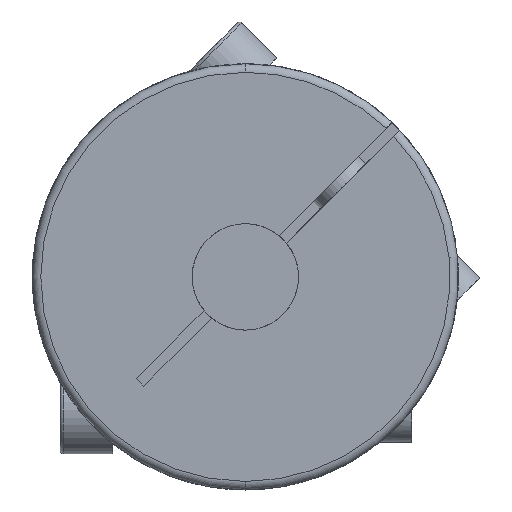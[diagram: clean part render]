
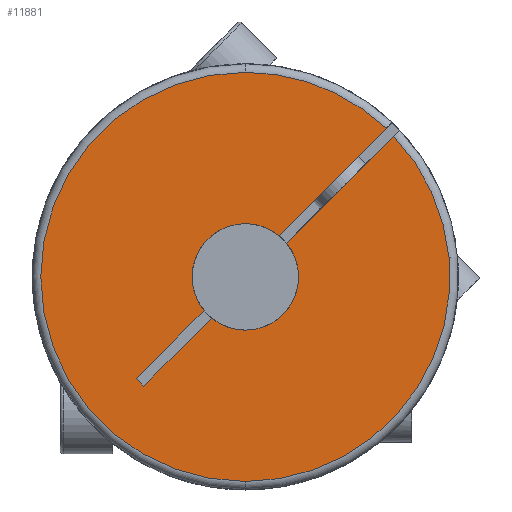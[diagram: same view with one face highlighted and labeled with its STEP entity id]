
A CAD part, left-side view. The second image highlights one B-rep face of the part: STEP entity #11881.
In plain terms, the highlighted planar face has unit normal (-1, 0, 0).
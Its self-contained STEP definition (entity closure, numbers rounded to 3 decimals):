
#102 = DIRECTION ( 'NONE',  ( -1., 0., 0. ) ) ;
#139 = CARTESIAN_POINT ( 'NONE',  ( -15., 4.773, -5.127 ) ) ;
#190 = DIRECTION ( 'NONE',  ( -1., 0., 0. ) ) ;
#704 = DIRECTION ( 'NONE',  ( 0., 0.707, -0.707 ) ) ;
#874 = CIRCLE ( 'NONE', #3271, 2.5 ) ;
#925 = AXIS2_PLACEMENT_3D ( 'NONE', #1365, #8386, #2394 ) ;
#1056 = VERTEX_POINT ( 'NONE', #5362 ) ;
#1162 = CARTESIAN_POINT ( 'NONE',  ( -15., 1.582, -1.936 ) ) ;
#1365 = CARTESIAN_POINT ( 'NONE',  ( -15., 0., 0. ) ) ;
#1373 = DIRECTION ( 'NONE',  ( 0., -0.707, 0.707 ) ) ;
#1576 = CARTESIAN_POINT ( 'NONE',  ( -15., -9.016, 9.369 ) ) ;
#1984 = CIRCLE ( 'NONE', #925, 2.5 ) ;
#2394 = DIRECTION ( 'NONE',  ( 0., 0., 1. ) ) ;
#2510 = VECTOR ( 'NONE', #704, 1000. ) ;
#2567 = CARTESIAN_POINT ( 'NONE',  ( -15., 0., 2.5 ) ) ;
#2668 = EDGE_CURVE ( 'NONE', #3337, #11656, #6733, .T. ) ;
#2835 = CIRCLE ( 'NONE', #8642, 2.5 ) ;
#2837 = CARTESIAN_POINT ( 'NONE',  ( -15., -6.963, 6.609 ) ) ;
#2937 = EDGE_CURVE ( 'NONE', #7774, #8432, #4524, .T. ) ;
#3153 = ORIENTED_EDGE ( 'NONE', *, *, #8484, .T. ) ;
#3166 = CIRCLE ( 'NONE', #6509, 2.5 ) ;
#3252 = LINE ( 'NONE', #5492, #5254 ) ;
#3271 = AXIS2_PLACEMENT_3D ( 'NONE', #4256, #11291, #5234 ) ;
#3337 = VERTEX_POINT ( 'NONE', #6071 ) ;
#3423 = ORIENTED_EDGE ( 'NONE', *, *, #4771, .F. ) ;
#3570 = DIRECTION ( 'NONE',  ( 1., 0., 0. ) ) ;
#3685 = DIRECTION ( 'NONE',  ( -1., 0., 0. ) ) ;
#3959 = DIRECTION ( 'NONE',  ( -1., 0., 0. ) ) ;
#3966 = ORIENTED_EDGE ( 'NONE', *, *, #5933, .F. ) ;
#4007 = EDGE_CURVE ( 'NONE', #5508, #12759, #12792, .T. ) ;
#4170 = VERTEX_POINT ( 'NONE', #6381 ) ;
#4256 = CARTESIAN_POINT ( 'NONE',  ( -15., 0., 0. ) ) ;
#4413 = CIRCLE ( 'NONE', #6768, 9.6 ) ;
#4524 = CIRCLE ( 'NONE', #9201, 9.6 ) ;
#4565 = EDGE_CURVE ( 'NONE', #6214, #1056, #4413, .T. ) ;
#4771 = EDGE_CURVE ( 'NONE', #4836, #4170, #3166, .T. ) ;
#4836 = VERTEX_POINT ( 'NONE', #4843 ) ;
#4843 = CARTESIAN_POINT ( 'NONE',  ( -15., 0., -2.5 ) ) ;
#4958 = AXIS2_PLACEMENT_3D ( 'NONE', #9972, #3959, #10988 ) ;
#5136 = LINE ( 'NONE', #10718, #2510 ) ;
#5234 = DIRECTION ( 'NONE',  ( 0., 0., 1. ) ) ;
#5254 = VECTOR ( 'NONE', #11545, 1000. ) ;
#5361 = ORIENTED_EDGE ( 'NONE', *, *, #12283, .F. ) ;
#5362 = CARTESIAN_POINT ( 'NONE',  ( -15., 0., 9.6 ) ) ;
#5492 = CARTESIAN_POINT ( 'NONE',  ( -15., 5.127, -4.773 ) ) ;
#5508 = VERTEX_POINT ( 'NONE', #12953 ) ;
#5612 = CIRCLE ( 'NONE', #4958, 9.6 ) ;
#5739 = DIRECTION ( 'NONE',  ( -1., 0., 0. ) ) ;
#5822 = EDGE_LOOP ( 'NONE', ( #6553, #13009, #10304, #3153, #7810, #12592, #3423, #3966, #12936, #6312, #12280, #5361 ) ) ;
#5910 = LINE ( 'NONE', #8393, #8610 ) ;
#5932 = CARTESIAN_POINT ( 'NONE',  ( -15., 5.127, -4.773 ) ) ;
#5933 = EDGE_CURVE ( 'NONE', #11656, #4836, #2835, .T. ) ;
#6071 = CARTESIAN_POINT ( 'NONE',  ( -15., 4.773, -5.127 ) ) ;
#6093 = CARTESIAN_POINT ( 'NONE',  ( -15., 0., 0. ) ) ;
#6172 = CARTESIAN_POINT ( 'NONE',  ( -15., 0., 0. ) ) ;
#6214 = VERTEX_POINT ( 'NONE', #8690 ) ;
#6312 = ORIENTED_EDGE ( 'NONE', *, *, #10233, .F. ) ;
#6381 = CARTESIAN_POINT ( 'NONE',  ( -15., -1.936, 1.582 ) ) ;
#6509 = AXIS2_PLACEMENT_3D ( 'NONE', #11807, #5739, #12827 ) ;
#6544 = EDGE_CURVE ( 'NONE', #6214, #7057, #5136, .T. ) ;
#6553 = ORIENTED_EDGE ( 'NONE', *, *, #11360, .F. ) ;
#6669 = CARTESIAN_POINT ( 'NONE',  ( -15., 0., -9.6 ) ) ;
#6733 = LINE ( 'NONE', #139, #11795 ) ;
#6768 = AXIS2_PLACEMENT_3D ( 'NONE', #6093, #102, #7112 ) ;
#6776 = VECTOR ( 'NONE', #9601, 1000. ) ;
#6784 = AXIS2_PLACEMENT_3D ( 'NONE', #7565, #3570, #10591 ) ;
#7057 = VERTEX_POINT ( 'NONE', #7090 ) ;
#7090 = CARTESIAN_POINT ( 'NONE',  ( -15., -1.582, 1.936 ) ) ;
#7112 = DIRECTION ( 'NONE',  ( 0., 0., -1. ) ) ;
#7121 = FACE_OUTER_BOUND ( 'NONE', #5822, .T. ) ;
#7201 = DIRECTION ( 'NONE',  ( 0., 0., 1. ) ) ;
#7565 = CARTESIAN_POINT ( 'NONE',  ( -15., 10., 0. ) ) ;
#7774 = VERTEX_POINT ( 'NONE', #6669 ) ;
#7810 = ORIENTED_EDGE ( 'NONE', *, *, #2937, .T. ) ;
#8108 = EDGE_CURVE ( 'NONE', #4170, #8432, #5910, .T. ) ;
#8386 = DIRECTION ( 'NONE',  ( -1., 0., 0. ) ) ;
#8393 = CARTESIAN_POINT ( 'NONE',  ( -15., 4.773, -5.127 ) ) ;
#8432 = VERTEX_POINT ( 'NONE', #2837 ) ;
#8484 = EDGE_CURVE ( 'NONE', #1056, #7774, #5612, .T. ) ;
#8610 = VECTOR ( 'NONE', #1373, 1000. ) ;
#8642 = AXIS2_PLACEMENT_3D ( 'NONE', #6172, #190, #7201 ) ;
#8690 = CARTESIAN_POINT ( 'NONE',  ( -15., -6.609, 6.963 ) ) ;
#9182 = DIRECTION ( 'NONE',  ( 0., -0.707, 0.707 ) ) ;
#9201 = AXIS2_PLACEMENT_3D ( 'NONE', #9706, #3685, #10712 ) ;
#9601 = DIRECTION ( 'NONE',  ( 0., 0.707, -0.707 ) ) ;
#9706 = CARTESIAN_POINT ( 'NONE',  ( -15., 0., 0. ) ) ;
#9972 = CARTESIAN_POINT ( 'NONE',  ( -15., 0., 0. ) ) ;
#10233 = EDGE_CURVE ( 'NONE', #12759, #3337, #3252, .T. ) ;
#10304 = ORIENTED_EDGE ( 'NONE', *, *, #4565, .T. ) ;
#10591 = DIRECTION ( 'NONE',  ( 0., 0., -1. ) ) ;
#10712 = DIRECTION ( 'NONE',  ( 0., 0., -1. ) ) ;
#10718 = CARTESIAN_POINT ( 'NONE',  ( -15., -9.016, 9.369 ) ) ;
#10988 = DIRECTION ( 'NONE',  ( 0., 0., -1. ) ) ;
#11030 = VERTEX_POINT ( 'NONE', #2567 ) ;
#11291 = DIRECTION ( 'NONE',  ( -1., 0., 0. ) ) ;
#11360 = EDGE_CURVE ( 'NONE', #7057, #11030, #874, .T. ) ;
#11545 = DIRECTION ( 'NONE',  ( 0., -0.707, -0.707 ) ) ;
#11656 = VERTEX_POINT ( 'NONE', #1162 ) ;
#11795 = VECTOR ( 'NONE', #9182, 1000. ) ;
#11807 = CARTESIAN_POINT ( 'NONE',  ( -15., 0., 0. ) ) ;
#11881 = ADVANCED_FACE ( 'NONE', ( #7121 ), #12611, .F. ) ;
#12280 = ORIENTED_EDGE ( 'NONE', *, *, #4007, .F. ) ;
#12283 = EDGE_CURVE ( 'NONE', #11030, #5508, #1984, .T. ) ;
#12592 = ORIENTED_EDGE ( 'NONE', *, *, #8108, .F. ) ;
#12611 = PLANE ( 'NONE',  #6784 ) ;
#12759 = VERTEX_POINT ( 'NONE', #5932 ) ;
#12792 = LINE ( 'NONE', #1576, #6776 ) ;
#12827 = DIRECTION ( 'NONE',  ( 0., 0., 1. ) ) ;
#12936 = ORIENTED_EDGE ( 'NONE', *, *, #2668, .F. ) ;
#12953 = CARTESIAN_POINT ( 'NONE',  ( -15., 1.936, -1.582 ) ) ;
#13009 = ORIENTED_EDGE ( 'NONE', *, *, #6544, .F. ) ;
